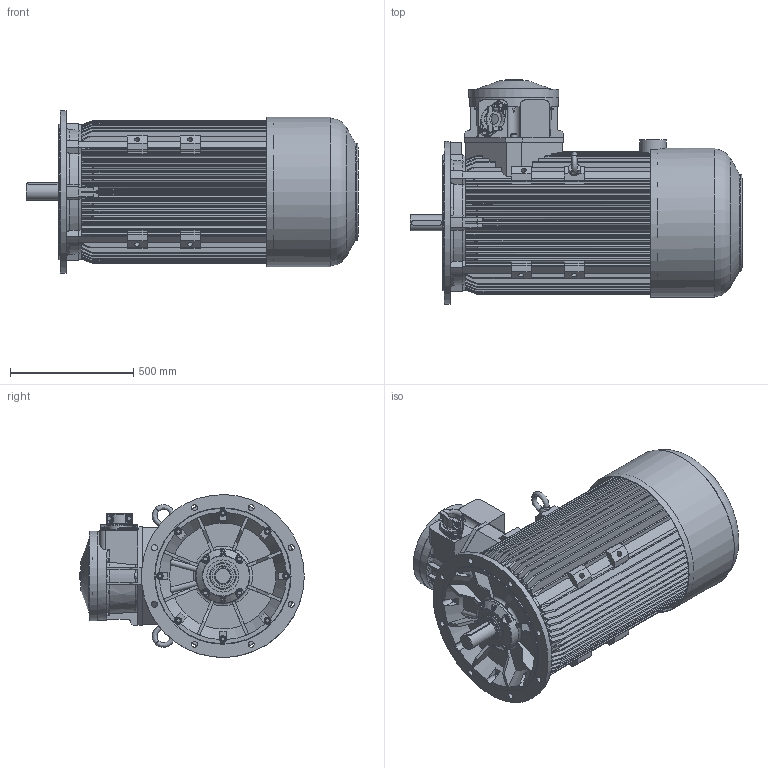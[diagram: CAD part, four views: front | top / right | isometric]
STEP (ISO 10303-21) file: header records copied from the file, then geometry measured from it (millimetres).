
FILE_DESCRIPTION(/* description */ ('Unknown'),/* implementation_level */ '2;1');
FILE_NAME(/* name */ 'cSTKe(b)315M2(B,C)-N-IE(2,3)',/* time_stamp */ '2022-04-19T13:48:50+02:00',/* author */ ('Unknown'),/* organization */ ('Unknown'),/* preprocessor_version */ 'ST-DEVELOPER v16.7',/* originating_system */ 'DEX',/* authorisation */ $);
FILE_SCHEMA (('AP242_MANAGED_MODEL_BASED_3D_ENGINEERING_MIM_LF { 1 0 10303 442 1 1 4 }','AUTOMOTIVE_DESIGN {1 0 10303 214 3 1 1}'));
Products named in the file (1): cSTKe(b)315M2(B,C)-N-IE(2,3)
Bounding box: 1345.49 x 910 x 659.67 mm (x, y, z)
Volume: 302371884.2 mm3; surface area: 7346654.6 mm2
Topology: 1 solids, 59 shells, 2450 faces, 6325 edges, 4056 vertices
Faces by surface type: plane 1075, cylinder 702, cone 318, torus 182, bspline 125, sphere 48
Full cylindrical faces by diameter (mm): 2.8 x2, 8.16 x2, 8.376 x4, 10 x10, 10.106 x10, 11 x6, 12 x16, 13.5 x8, 13.546 x12, 13.835 x12, 14.63 x8, 16 x24, 17.5 x12, 18 x8, 20.752 x8, 22 x8, 24 x20, 26 x8, 44 x1, 60.376 x1, 65 x1, 67 x1, 85 x1, 87 x1, 106 x1, 129.8 x1, 220 x1, 295.992 x2, 296 x1, 303.192 x1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
Entity records: 96264 total; most frequent: CARTESIAN_POINT 22515, DIRECTION 11605, ORIENTED_EDGE 11528, EDGE_CURVE 5764, AXIS2_PLACEMENT_3D 4449, VERTEX_POINT 3883, FACE_BOUND 2991, EDGE_LOOP 2975
